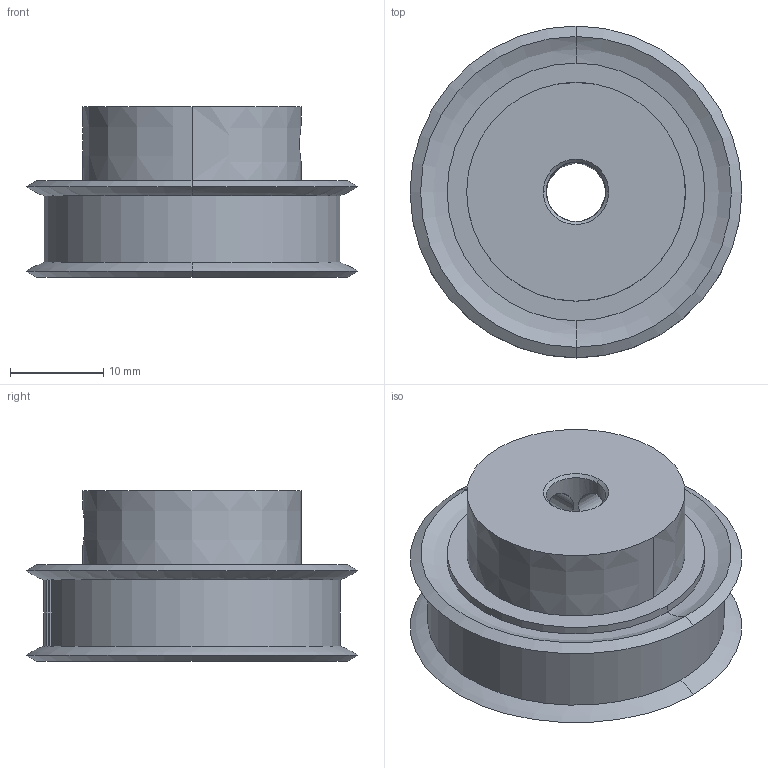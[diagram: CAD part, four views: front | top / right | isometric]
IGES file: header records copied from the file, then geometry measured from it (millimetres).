
Start section:  PTC IGES file: 43383.igs
Global section: file name: 43383.igs; native system: Pro/ENGINEER by Parametric Technology Corporation; preprocessor: 2001430; author: Administrator; organization: Unknown; date: 020621.120308; units: inch
Bounding box: 35.51 x 35.51 x 18.26 mm (x, y, z)
Surface area: 4437.1 mm2 (no closed solid volume)
Topology: 0 solids, 0 shells, 47 faces, 224 edges, 224 vertices
Faces by surface type: revolution 40, bspline 7
